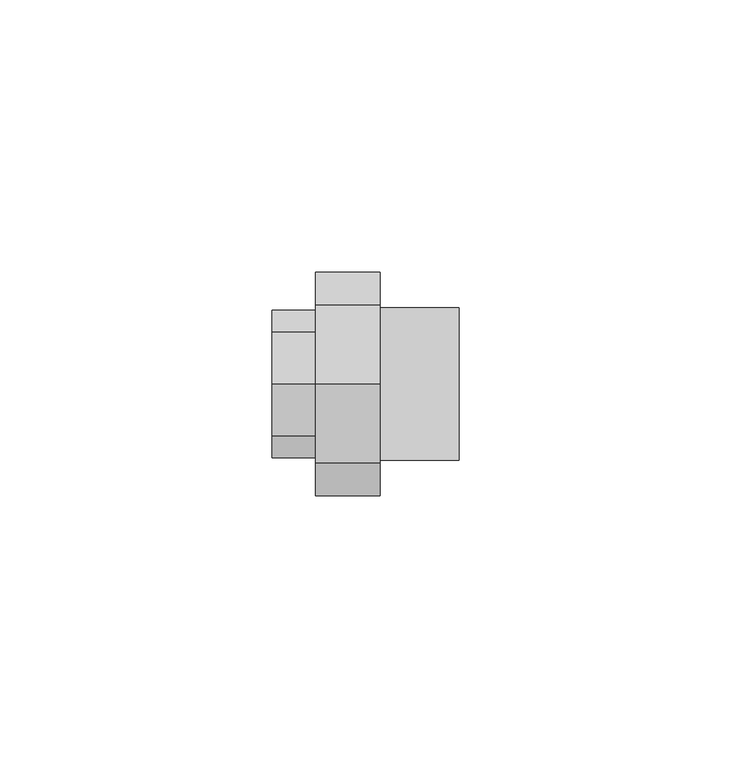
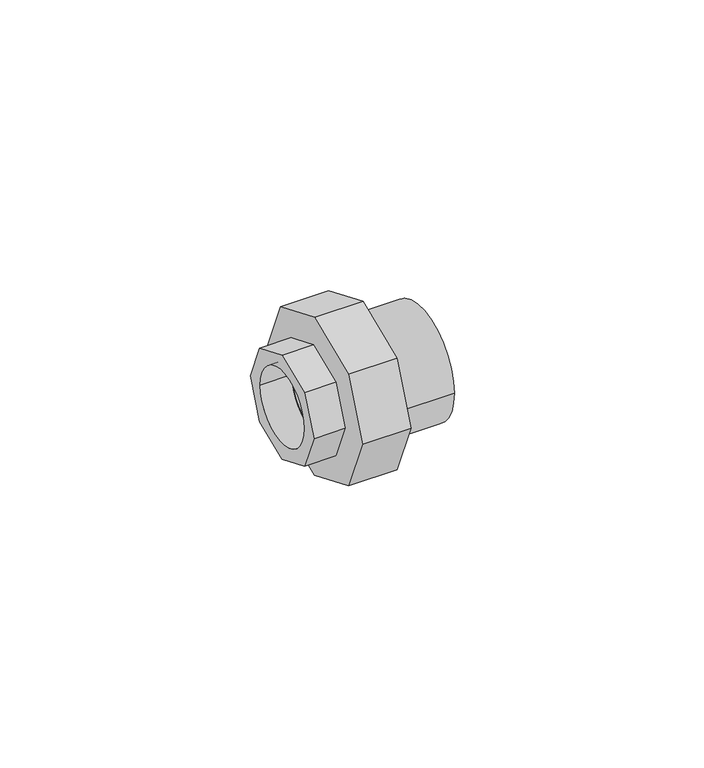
"""IFC4 building model written with IfcOpenShell, lengths in millimetres: pipe fitting geometry, 25_Муфта комбинированная разъемная ВР : Белый цвет."""

from ifc_helpers import new_model, si_unit, point, frame, origin, origin_2d, place, context, project, spatial, polyline, circle_curve, trimmed, segment, composite_curve, outline, extrude, source, transform, mapped, element, save


def pipe_fitting_52d6f32c(model_context):
    return source(origin(), model_context, "Body", "SweptSolid", [
        extrude(outline(polyline([(-14.5419704, 14.5419704), (0.0, 20.5654518), (14.5419704, 14.5419704), (20.5654518, 0.0), (14.5419704, -14.5419704), (0.0, -20.5654518), (-14.5419704, -14.5419704), (-20.5654518, 0.0), (-14.5419704, 14.5419704)]), holes=[composite_curve([segment(trimmed(circle_curve(origin_2d(), 9.4), [point((-9.4, 0.0))], [point((9.4, 0.0))], True, "CARTESIAN"), True, "CONTINUOUS"), segment(trimmed(circle_curve(origin_2d(), 9.4), [point((9.4, 0.0))], [point((-9.4, 0.0))], True, "CARTESIAN"), True, "CONTINUOUS")], self_intersect=False)]), frame((0.0, 0.0, 0.0), z_axis=(1.0, 0.0, 0.0), x_axis=(0.0, 1.0, 0.0)), (0.0, 0.0, 1.0), 11.9),
        extrude(outline(polyline([(-9.5670858, 9.5670858), (0.0, 13.5299025), (9.5670858, 9.5670858), (13.5299025, 0.0), (9.5670858, -9.5670858), (0.0, -13.5299025), (-9.5670858, -9.5670858), (-13.5299025, 0.0), (-9.5670858, 9.5670858)]), holes=[composite_curve([segment(trimmed(circle_curve(origin_2d(), 9.4), [point((-9.4, 0.0))], [point((9.4, 0.0))], True, "CARTESIAN"), True, "CONTINUOUS"), segment(trimmed(circle_curve(origin_2d(), 9.4), [point((9.4, 0.0))], [point((-9.4, 0.0))], True, "CARTESIAN"), True, "CONTINUOUS")], self_intersect=False)]), frame((-8.0, 0.0, 0.0), z_axis=(1.0, 0.0, 0.0), x_axis=(0.0, 1.0, 0.0)), (0.0, 0.0, 1.0), 8.0),
        extrude(outline(composite_curve([segment(trimmed(circle_curve(origin_2d(), 14.0), [point((-14.0, 0.0))], [point((14.0, 0.0))], False, "CARTESIAN"), True, "CONTINUOUS"), segment(trimmed(circle_curve(origin_2d(), 14.0), [point((14.0, 0.0))], [point((-14.0, 0.0))], False, "CARTESIAN"), True, "CONTINUOUS")], self_intersect=False), holes=[composite_curve([segment(trimmed(circle_curve(origin_2d(), 10.0), [point((-10.0, 0.0))], [point((10.0, 0.0))], True, "CARTESIAN"), True, "CONTINUOUS"), segment(trimmed(circle_curve(origin_2d(), 10.0), [point((10.0, 0.0))], [point((-10.0, 0.0))], True, "CARTESIAN"), True, "CONTINUOUS")], self_intersect=False)]), frame((11.9, 0.0, 0.0), z_axis=(1.0, 0.0, 0.0), x_axis=(0.0, 1.0, 0.0)), (0.0, 0.0, 1.0), 14.5),
    ])


if __name__ == "__main__":
    model = new_model("IFC4")
    model_context = context("Model", 3, world=origin())
    ifc_project = project(units=[si_unit("LENGTHUNIT", "METRE", prefix="MILLI")], contexts=[model_context])
    site = spatial("IfcSite", under=ifc_project)
    building = spatial("IfcBuilding", under=site)
    placement = place(None, origin())
    pipe_fitting_shape = pipe_fitting_52d6f32c(model_context)
    element("IfcPipeFitting", 1, ObjectType="25_Муфта комбинированная разъемная ВР : Белый цвет", at=placement, inside=building, context=model_context, shape_type="MappedRepresentation", body=[
        mapped(pipe_fitting_shape, transform((0.0, 0.0, 0.0), x_axis=(1.0, 0.0, 0.0), y_axis=(0.0, 1.0, 0.0), z_axis=(0.0, 0.0, 1.0))),
    ])
    save(model, "model.ifc")
